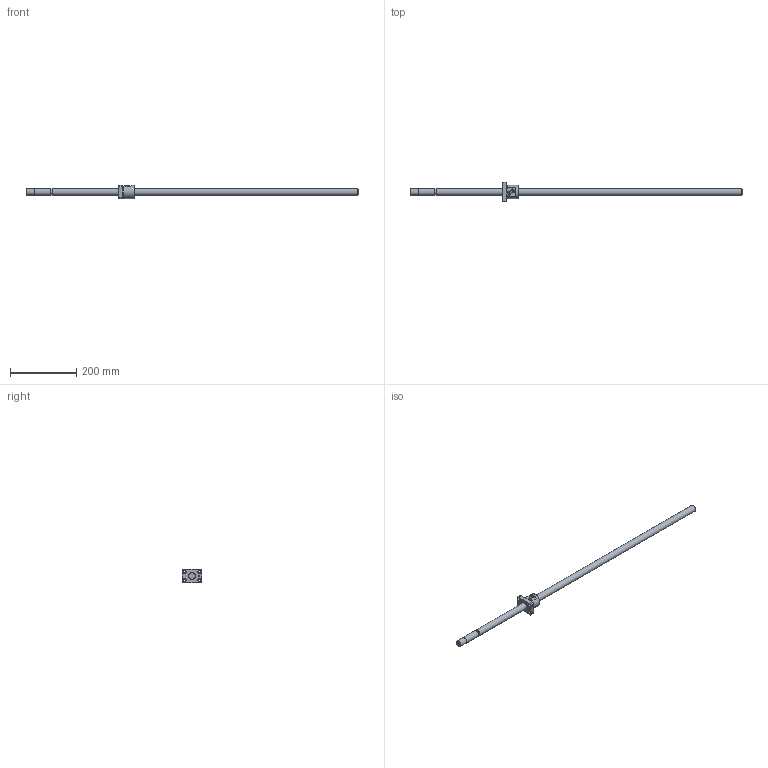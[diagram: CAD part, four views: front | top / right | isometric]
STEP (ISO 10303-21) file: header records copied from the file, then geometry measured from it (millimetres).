
FILE_DESCRIPTION (( 'STEP AP214' ), '1' );
FILE_NAME ('KBS(C)2005-1005.STEP', '2021-07-05T02:20:24', ( '' ), ( '' ), 'SwSTEP 2.0', 'SolidWorks 2019', '' );
FILE_SCHEMA (( 'AUTOMOTIVE_DESIGN' ));
Length unit declared in the file: millimetre
Products named in the file (3): KBS2005-1005; KBS(C)2005-1005; KBS2005
Assembly tree (2 placements, depth 2):
  KBS(C)2005-1005
    KBS2005-1005
    KBS2005
Bounding box: 1005 x 60 x 40 mm (x, y, z)
Volume: 367583.1 mm3; surface area: 79576.1 mm2
Topology: 2 solids, 2 shells, 103 faces, 259 edges, 171 vertices
Faces by surface type: plane 55, cylinder 40, cone 4, torus 4
Full cylindrical faces by diameter (mm): 3.2 x1, 5 x1, 5.6 x2, 6.6 x4, 11 x4, 17.5 x1, 19.5 x1, 20 x3, 22 x2, 40 x1
Entity records: 3305 total; most frequent: CARTESIAN_POINT 870, DIRECTION 464, ORIENTED_EDGE 448, EDGE_CURVE 224, AXIS2_PLACEMENT_3D 176, VERTEX_POINT 164, EDGE_LOOP 158, FACE_OUTER_BOUND 127
